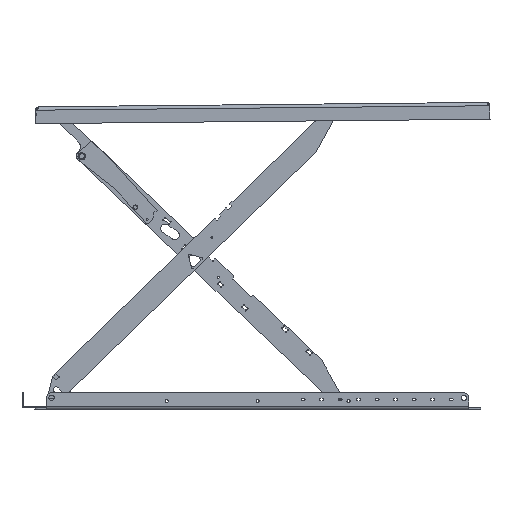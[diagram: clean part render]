
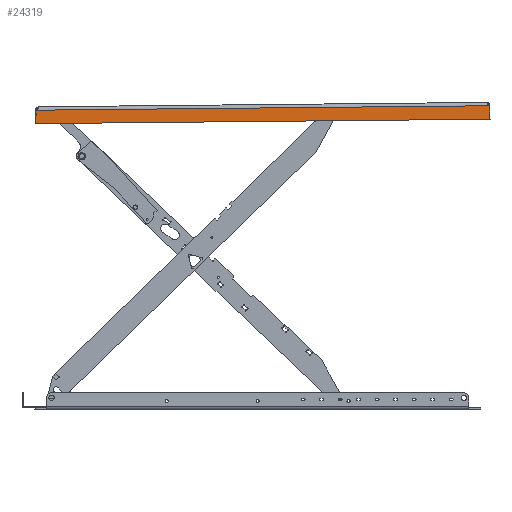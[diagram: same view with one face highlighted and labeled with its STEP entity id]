
A CAD part, front view. The second image highlights one B-rep face of the part: STEP entity #24319.
In plain terms, the highlighted planar face has unit normal (0, -1, 0).
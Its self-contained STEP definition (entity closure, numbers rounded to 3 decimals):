
#1383=PLANE('',#27035);
#2539=FACE_OUTER_BOUND('',#4178,.T.);
#4178=EDGE_LOOP('',(#21385,#21386,#21387,#21388,#21389,#21390,#21391,#21392,
#21393,#21394,#21395,#21396));
#6062=LINE('',#40830,#8066);
#6119=LINE('',#40988,#8123);
#6121=LINE('',#40994,#8125);
#6122=LINE('',#40996,#8126);
#6123=LINE('',#40998,#8127);
#6124=LINE('',#41000,#8128);
#6125=LINE('',#41002,#8129);
#6126=LINE('',#41004,#8130);
#8066=VECTOR('',#33599,10.);
#8123=VECTOR('',#33740,10.);
#8125=VECTOR('',#33746,10.);
#8126=VECTOR('',#33747,10.);
#8127=VECTOR('',#33748,10.);
#8128=VECTOR('',#33749,10.);
#8129=VECTOR('',#33750,10.);
#8130=VECTOR('',#33753,10.);
#9598=CIRCLE('',#26990,1.);
#9620=CIRCLE('',#27033,1.);
#9621=CIRCLE('',#27036,38.539);
#9622=CIRCLE('',#27037,38.539);
#11732=VERTEX_POINT('',#40817);
#11733=VERTEX_POINT('',#40818);
#11737=VERTEX_POINT('',#40828);
#11794=VERTEX_POINT('',#40981);
#11795=VERTEX_POINT('',#40982);
#11796=VERTEX_POINT('',#40987);
#11797=VERTEX_POINT('',#40991);
#11798=VERTEX_POINT('',#40993);
#11799=VERTEX_POINT('',#40995);
#11800=VERTEX_POINT('',#40997);
#11801=VERTEX_POINT('',#40999);
#11802=VERTEX_POINT('',#41001);
#14977=EDGE_CURVE('',#11732,#11733,#9598,.T.);
#14983=EDGE_CURVE('',#11737,#11732,#6062,.T.);
#15058=EDGE_CURVE('',#11794,#11795,#9620,.T.);
#15061=EDGE_CURVE('',#11795,#11796,#6119,.T.);
#15063=EDGE_CURVE('',#11737,#11797,#9621,.T.);
#15064=EDGE_CURVE('',#11798,#11797,#6121,.T.);
#15065=EDGE_CURVE('',#11798,#11799,#6122,.T.);
#15066=EDGE_CURVE('',#11799,#11800,#6123,.T.);
#15067=EDGE_CURVE('',#11800,#11801,#6124,.T.);
#15068=EDGE_CURVE('',#11802,#11801,#6125,.T.);
#15069=EDGE_CURVE('',#11802,#11796,#9622,.T.);
#15070=EDGE_CURVE('',#11733,#11794,#6126,.T.);
#21385=ORIENTED_EDGE('',*,*,#14977,.F.);
#21386=ORIENTED_EDGE('',*,*,#14983,.F.);
#21387=ORIENTED_EDGE('',*,*,#15063,.T.);
#21388=ORIENTED_EDGE('',*,*,#15064,.F.);
#21389=ORIENTED_EDGE('',*,*,#15065,.T.);
#21390=ORIENTED_EDGE('',*,*,#15066,.T.);
#21391=ORIENTED_EDGE('',*,*,#15067,.T.);
#21392=ORIENTED_EDGE('',*,*,#15068,.F.);
#21393=ORIENTED_EDGE('',*,*,#15069,.T.);
#21394=ORIENTED_EDGE('',*,*,#15061,.F.);
#21395=ORIENTED_EDGE('',*,*,#15058,.F.);
#21396=ORIENTED_EDGE('',*,*,#15070,.F.);
#24319=ADVANCED_FACE('',(#2539),#1383,.F.);
#26990=AXIS2_PLACEMENT_3D('',#40819,#33589,#33590);
#27033=AXIS2_PLACEMENT_3D('',#40983,#33734,#33735);
#27035=AXIS2_PLACEMENT_3D('',#40990,#33742,#33743);
#27036=AXIS2_PLACEMENT_3D('',#40992,#33744,#33745);
#27037=AXIS2_PLACEMENT_3D('',#41003,#33751,#33752);
#33589=DIRECTION('center_axis',(0.,1.,0.));
#33590=DIRECTION('ref_axis',(-0.707,0.,0.707));
#33599=DIRECTION('',(0.,0.,1.));
#33734=DIRECTION('center_axis',(0.,1.,0.));
#33735=DIRECTION('ref_axis',(0.707,0.,0.707));
#33740=DIRECTION('',(0.,0.,-1.));
#33742=DIRECTION('center_axis',(0.,1.,0.));
#33743=DIRECTION('ref_axis',(1.,0.,0.));
#33744=DIRECTION('center_axis',(0.,1.,0.));
#33745=DIRECTION('ref_axis',(0.966,0.,-0.259));
#33746=DIRECTION('',(0.,0.,1.));
#33747=DIRECTION('',(0.856,0.,-0.517));
#33748=DIRECTION('',(1.,0.,0.));
#33749=DIRECTION('',(0.856,0.,0.517));
#33750=DIRECTION('',(0.,0.,-1.));
#33751=DIRECTION('center_axis',(0.,1.,0.));
#33752=DIRECTION('ref_axis',(0.966,0.,0.259));
#33753=DIRECTION('',(1.,0.,0.));
#40817=CARTESIAN_POINT('',(-675.,-635.,49.));
#40818=CARTESIAN_POINT('',(-674.,-635.,50.));
#40819=CARTESIAN_POINT('Origin',(-674.,-635.,49.));
#40828=CARTESIAN_POINT('',(-675.,-635.,32.196));
#40830=CARTESIAN_POINT('',(-675.,-635.,10.));
#40981=CARTESIAN_POINT('',(674.,-635.,50.));
#40982=CARTESIAN_POINT('',(675.,-635.,49.));
#40983=CARTESIAN_POINT('Origin',(674.,-635.,49.));
#40987=CARTESIAN_POINT('',(675.,-635.,32.196));
#40988=CARTESIAN_POINT('',(675.,-635.,10.));
#40990=CARTESIAN_POINT('Origin',(0.,-635.,25.016));
#40991=CARTESIAN_POINT('',(-675.,-635.,12.196));
#40992=CARTESIAN_POINT('Origin',(-712.219,-635.,22.196));
#40993=CARTESIAN_POINT('',(-675.,-635.,10.59));
#40994=CARTESIAN_POINT('',(-675.,-635.,10.));
#40995=CARTESIAN_POINT('',(-674.023,-635.,10.));
#40996=CARTESIAN_POINT('',(-430.382,-635.,-137.12));
#40997=CARTESIAN_POINT('',(674.023,-635.,10.));
#40998=CARTESIAN_POINT('',(0.,-635.,10.));
#40999=CARTESIAN_POINT('',(675.,-635.,10.59));
#41000=CARTESIAN_POINT('',(430.87,-635.,-136.825));
#41001=CARTESIAN_POINT('',(675.,-635.,12.196));
#41002=CARTESIAN_POINT('',(675.,-635.,10.));
#41003=CARTESIAN_POINT('Origin',(712.219,-635.,22.196));
#41004=CARTESIAN_POINT('',(-675.,-635.,50.));
